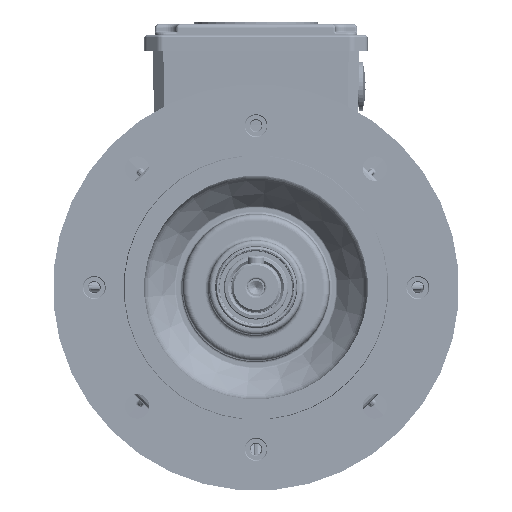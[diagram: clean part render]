
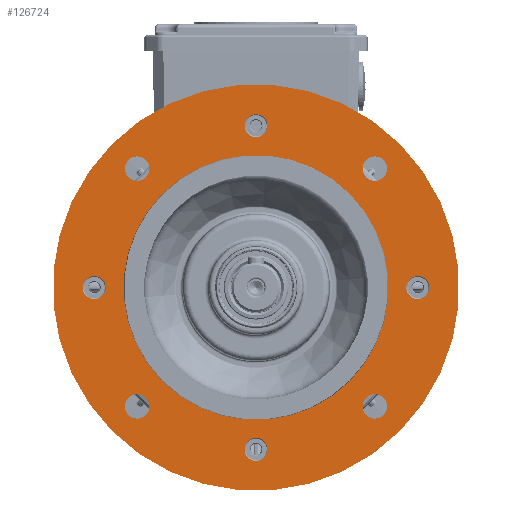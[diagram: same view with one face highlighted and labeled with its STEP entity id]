
A CAD part, left-side view. The second image highlights one B-rep face of the part: STEP entity #126724.
In plain terms, the highlighted planar face has unit normal (-1, 0, 0).
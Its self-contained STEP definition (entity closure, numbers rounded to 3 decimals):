
#39418=PLANE('',#163500);
#48364=EDGE_LOOP('',(#85630));
#48365=EDGE_LOOP('',(#85631));
#48366=EDGE_LOOP('',(#85632));
#48367=EDGE_LOOP('',(#85633));
#48368=EDGE_LOOP('',(#85634));
#48369=EDGE_LOOP('',(#85635));
#48370=EDGE_LOOP('',(#85636));
#48371=EDGE_LOOP('',(#85637));
#48372=EDGE_LOOP('',(#85638));
#48373=EDGE_LOOP('',(#85639));
#85630=ORIENTED_EDGE('',*,*,#111221,.T.);
#85631=ORIENTED_EDGE('',*,*,#111222,.T.);
#85632=ORIENTED_EDGE('',*,*,#111223,.T.);
#85633=ORIENTED_EDGE('',*,*,#111224,.T.);
#85634=ORIENTED_EDGE('',*,*,#111225,.T.);
#85635=ORIENTED_EDGE('',*,*,#111226,.T.);
#85636=ORIENTED_EDGE('',*,*,#111227,.T.);
#85637=ORIENTED_EDGE('',*,*,#111228,.T.);
#85638=ORIENTED_EDGE('',*,*,#111229,.T.);
#85639=ORIENTED_EDGE('',*,*,#111230,.F.);
#111221=EDGE_CURVE('',#140590,#140590,#148846,.T.);
#111222=EDGE_CURVE('',#140591,#140591,#148847,.T.);
#111223=EDGE_CURVE('',#140592,#140592,#148848,.T.);
#111224=EDGE_CURVE('',#140593,#140593,#148849,.T.);
#111225=EDGE_CURVE('',#140594,#140594,#148850,.T.);
#111226=EDGE_CURVE('',#140595,#140595,#148851,.T.);
#111227=EDGE_CURVE('',#140596,#140596,#148852,.T.);
#111228=EDGE_CURVE('',#140597,#140597,#148853,.T.);
#111229=EDGE_CURVE('',#140598,#140598,#148854,.T.);
#111230=EDGE_CURVE('',#140599,#140599,#148855,.T.);
#126724=ADVANCED_FACE('',(#129716,#129717,#129718,#129719,#129720,#129721,
#129722,#129723,#129724,#129725),#39418,.T.);
#129716=FACE_BOUND('',#48364,.T.);
#129717=FACE_BOUND('',#48365,.T.);
#129718=FACE_BOUND('',#48366,.T.);
#129719=FACE_BOUND('',#48367,.T.);
#129720=FACE_BOUND('',#48368,.T.);
#129721=FACE_BOUND('',#48369,.T.);
#129722=FACE_BOUND('',#48370,.T.);
#129723=FACE_BOUND('',#48371,.T.);
#129724=FACE_BOUND('',#48372,.T.);
#129725=FACE_BOUND('',#48373,.T.);
#140590=VERTEX_POINT('',#328024);
#140591=VERTEX_POINT('',#328026);
#140592=VERTEX_POINT('',#328028);
#140593=VERTEX_POINT('',#328030);
#140594=VERTEX_POINT('',#328032);
#140595=VERTEX_POINT('',#328034);
#140596=VERTEX_POINT('',#328036);
#140597=VERTEX_POINT('',#328038);
#140598=VERTEX_POINT('',#328040);
#140599=VERTEX_POINT('',#328042);
#148846=CIRCLE('',#163490,6.);
#148847=CIRCLE('',#163491,6.);
#148848=CIRCLE('',#163492,6.);
#148849=CIRCLE('',#163493,6.);
#148850=CIRCLE('',#163494,5.65);
#148851=CIRCLE('',#163495,5.65);
#148852=CIRCLE('',#163496,5.65);
#148853=CIRCLE('',#163497,5.65);
#148854=CIRCLE('',#163498,65.);
#148855=CIRCLE('',#163499,99.75);
#163490=AXIS2_PLACEMENT_3D('',#328023,#197095,#197096);
#163491=AXIS2_PLACEMENT_3D('',#328025,#197097,#197098);
#163492=AXIS2_PLACEMENT_3D('',#328027,#197099,#197100);
#163493=AXIS2_PLACEMENT_3D('',#328029,#197101,#197102);
#163494=AXIS2_PLACEMENT_3D('',#328031,#197103,#197104);
#163495=AXIS2_PLACEMENT_3D('',#328033,#197105,#197106);
#163496=AXIS2_PLACEMENT_3D('',#328035,#197107,#197108);
#163497=AXIS2_PLACEMENT_3D('',#328037,#197109,#197110);
#163498=AXIS2_PLACEMENT_3D('',#328039,#197111,#197112);
#163499=AXIS2_PLACEMENT_3D('',#328041,#197113,#197114);
#163500=AXIS2_PLACEMENT_3D('',#328043,#197115,#197116);
#197095=DIRECTION('',(1.,0.,0.));
#197096=DIRECTION('',(0.,0.707,0.707));
#197097=DIRECTION('',(1.,0.,0.));
#197098=DIRECTION('',(0.,-0.707,0.707));
#197099=DIRECTION('',(1.,0.,0.));
#197100=DIRECTION('',(0.,-0.707,-0.707));
#197101=DIRECTION('',(1.,0.,0.));
#197102=DIRECTION('',(0.,0.707,-0.707));
#197103=DIRECTION('',(1.,0.,0.));
#197104=DIRECTION('',(0.,-0.707,0.707));
#197105=DIRECTION('',(1.,0.,0.));
#197106=DIRECTION('',(0.,-0.707,0.707));
#197107=DIRECTION('',(1.,0.,0.));
#197108=DIRECTION('',(0.,-0.707,0.707));
#197109=DIRECTION('',(1.,0.,0.));
#197110=DIRECTION('',(0.,-0.707,0.707));
#197111=DIRECTION('',(1.,0.,0.));
#197112=DIRECTION('',(0.,0.707,-0.707));
#197113=DIRECTION('',(1.,0.,0.));
#197114=DIRECTION('',(0.,0.707,-0.707));
#197115=DIRECTION('',(-1.,0.,0.));
#197116=DIRECTION('',(0.,-0.707,0.707));
#328023=CARTESIAN_POINT('',(-51.499,76.606,24.074));
#328024=CARTESIAN_POINT('',(-51.499,80.849,28.317));
#328025=CARTESIAN_POINT('',(-51.499,76.606,140.747));
#328026=CARTESIAN_POINT('',(-51.499,72.363,144.99));
#328027=CARTESIAN_POINT('',(-51.499,-40.067,140.747));
#328028=CARTESIAN_POINT('',(-51.499,-44.309,136.504));
#328029=CARTESIAN_POINT('',(-51.499,-40.066,24.074));
#328030=CARTESIAN_POINT('',(-51.499,-35.824,19.832));
#328031=CARTESIAN_POINT('',(-51.499,18.27,161.811));
#328032=CARTESIAN_POINT('',(-51.499,14.275,165.806));
#328033=CARTESIAN_POINT('',(-51.499,97.67,82.411));
#328034=CARTESIAN_POINT('',(-51.499,93.675,86.406));
#328035=CARTESIAN_POINT('',(-51.499,18.27,3.011));
#328036=CARTESIAN_POINT('',(-51.499,14.275,7.006));
#328037=CARTESIAN_POINT('',(-51.499,-61.13,82.41));
#328038=CARTESIAN_POINT('',(-51.499,-65.125,86.406));
#328039=CARTESIAN_POINT('',(-51.499,18.27,82.411));
#328040=CARTESIAN_POINT('',(-51.499,64.232,36.449));
#328041=CARTESIAN_POINT('',(-51.499,18.27,82.411));
#328042=CARTESIAN_POINT('',(-51.499,88.804,11.877));
#328043=CARTESIAN_POINT('',(-51.499,18.27,82.411));
